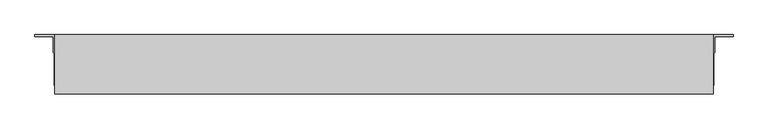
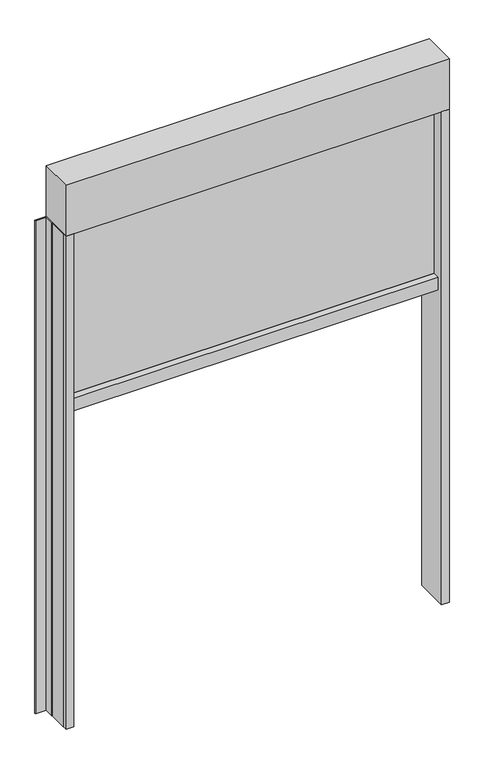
"""IFC4 building model written with IfcOpenShell, lengths in millimetres: proxy geometry, Renson_Fixscreen_Minimal_Single : Recessed - Front of the window - Small - Access downwards - Fabric away from the window."""

from ifc_helpers import new_model, si_unit, point, frame, frame_2d, origin, origin_with_axes, place, context, project, spatial, polyline, circle_curve, trimmed, segment, composite_curve, outline, extrude, source, transform, mapped, element, save


def generic_models_23fb29be(model_context):
    return source(origin(), model_context, "Body", "SweptSolid", [
        extrude(outline(polyline([(480.0, 603.5959909), (480.0, 693.5959909), (530.0000015, 693.5959909), (530.0000015, 690.5959909), (502.1058338, 690.5959909), (502.1058338, 666.1559251), (500.9999986, 664.6627313), (500.9999986, 616.4160689), (500.0, 615.0136452), (500.0, 603.5959909), (480.0, 603.5959909)])), origin_with_axes(), (0.0, 0.0, 1.0), 1360.0),
        extrude(outline(polyline([(-480.0, 603.5959909), (-500.0, 603.5959909), (-500.0, 615.0136452), (-500.9999986, 616.4160689), (-500.9999986, 664.6627313), (-502.1058338, 666.1559251), (-502.1058338, 690.5959909), (-530.0000015, 690.5959909), (-530.0000015, 693.5959909), (-480.0, 693.5959909), (-480.0, 603.5959909)])), origin_with_axes(), (0.0, 0.0, 1.0), 1360.0),
        extrude(outline(polyline([(-480.0, 640.0709909), (480.0, 640.0709909), (480.0, 637.0709909), (-480.0, 637.0709909), (-480.0, 640.0709909)])), frame((0.0, 0.0, 872.5006852), z_axis=(0.0, 0.0, 1.0), x_axis=(1.0, 0.0, 0.0)), (0.0, 0.0, 1.0), 487.4993148),
        extrude(outline(composite_curve([segment(polyline([(658.8209391, 860.0), (618.3210426, 860.0), (618.3210426, 894.1156826), (635.4451521, 895.0000198)]), True, "CONTINUOUS"), segment(trimmed(circle_curve(frame_2d((635.4709391, 894.5006852)), 0.5), [point((635.4451521, 895.0000198))], [point((635.9709391, 894.5006852))], False, "CARTESIAN"), True, "CONTINUOUS"), segment(polyline([(635.9709391, 894.5006852), (635.9709391, 893.5367989), (634.7058008, 893.5367989), (635.4461043, 889.0119223)]), True, "CONTINUOUS"), segment(trimmed(circle_curve(frame_2d((595.9709391, 882.5534911)), 40.0), [point((635.4461043, 889.0119223))], [point((635.9709391, 882.5534911))], False, "CARTESIAN"), True, "CONTINUOUS"), segment(polyline([(635.9709391, 882.5534911), (635.9709391, 874.5006852)]), True, "CONTINUOUS"), segment(trimmed(circle_curve(frame_2d((637.9709391, 874.5006852)), 2.0), [point((635.9709391, 874.5006852))], [point((637.9709391, 872.5006852))], True, "CARTESIAN"), True, "CONTINUOUS"), segment(polyline([(637.9709391, 872.5006852), (639.6709391, 872.5006852)]), True, "CONTINUOUS"), segment(trimmed(circle_curve(frame_2d((639.6709391, 874.5006852)), 2.0), [point((639.6709391, 872.5006852))], [point((641.6709391, 874.5006852))], True, "CARTESIAN"), True, "CONTINUOUS"), segment(polyline([(641.6709391, 874.5006852), (641.6709391, 882.5534911)]), True, "CONTINUOUS"), segment(trimmed(circle_curve(frame_2d((681.6709391, 882.5534911)), 40.0), [point((641.6709391, 882.5534911))], [point((642.195774, 889.0119223))], False, "CARTESIAN"), True, "CONTINUOUS"), segment(polyline([(642.195774, 889.0119223), (642.9360775, 893.5367989), (641.6709391, 893.5367989), (641.6709391, 894.5006852)]), True, "CONTINUOUS"), segment(trimmed(circle_curve(frame_2d((642.1709391, 894.5006852)), 0.5), [point((641.6709391, 894.5006852))], [point((642.1974995, 894.9999793))], False, "CARTESIAN"), True, "CONTINUOUS"), segment(polyline([(642.1974995, 894.9999793), (658.8209391, 894.1156826), (658.8209391, 860.0)]), True, "CONTINUOUS")], self_intersect=False)), frame((-480.0, 0.0, 0.0), z_axis=(1.0, 0.0, 0.0), x_axis=(0.0, 1.0, 0.0)), (0.0, 0.0, 1.0), 960.0),
        extrude(outline(polyline([(-500.0, 603.5959909), (-500.0, 693.5959909), (500.0, 693.5959909), (500.0, 603.5959909), (-500.0, 603.5959909)])), frame((0.0, 0.0, 1360.0), z_axis=(0.0, 0.0, 1.0), x_axis=(1.0, 0.0, 0.0)), (0.0, 0.0, 1.0), 140.0),
    ])


if __name__ == "__main__":
    model = new_model("IFC4")
    model_context = context("Model", 3, world=origin())
    ifc_project = project(units=[si_unit("LENGTHUNIT", "METRE", prefix="MILLI")], contexts=[model_context])
    site = spatial("IfcSite", under=ifc_project)
    building = spatial("IfcBuilding", under=site)
    placement = place(None, origin())
    generic_models_shape = generic_models_23fb29be(model_context)
    element("IfcBuildingElementProxy", 1, Name="Renson_Fixscreen_Minimal_Single : Recessed - Front of the window - Small - Access downwards - Fabric away from the window", ObjectType="Renson_Fixscreen_Minimal_Single : Recessed - Front of the window - Small - Access downwards - Fabric away from the window", at=placement, inside=building, context=model_context, shape_type="MappedRepresentation", body=[
        mapped(generic_models_shape, transform((0.0, 0.0, 0.0), x_axis=(1.0, 0.0, 0.0), y_axis=(0.0, 1.0, 0.0), z_axis=(0.0, 0.0, 1.0))),
    ])
    save(model, "model.ifc")
